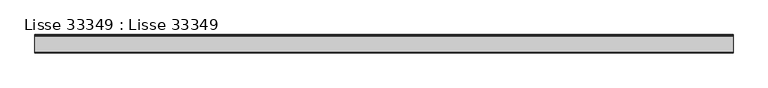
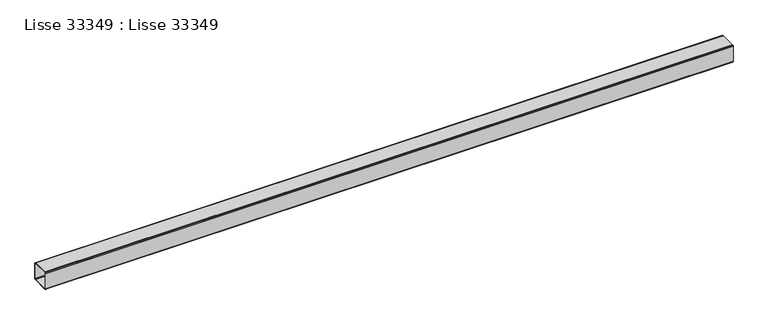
"""IFC4 building model written with IfcOpenShell, lengths in millimetres: beam geometry, Lisse 33349 : Lisse 33349."""

from ifc_helpers import new_model, si_unit, frame, origin, place, context, project, spatial, polyline, outline, extrude, source, transform, mapped, element, save


def lisse_33349_lisse_33349_2b0b3e01(model_context):
    return source(origin(), model_context, "Body", "SweptSolid", [
        extrude(outline(polyline([(-38458.0, 8318.4415211), (-38455.8038476, 8316.2453687), (-38455.0, 8313.2453687), (-38455.0, 8225.2453687), (-38455.8038476, 8222.2453687), (-38458.0, 8220.0492163), (-38461.0, 8219.2453687), (-38549.0, 8219.2453687), (-38552.0, 8220.0492163), (-38554.1961524, 8222.2453687), (-38555.0, 8225.2453687), (-38555.0, 8313.2453687), (-38554.1961524, 8316.2453687), (-38552.0, 8318.4415211), (-38549.0, 8319.2453687), (-38461.0, 8319.2453687), (-38458.0, 8318.4415211)]), holes=[polyline([(-38550.4641016, 8225.2453687), (-38549.0, 8223.7812671), (-38547.0, 8223.2453687), (-38463.0, 8223.2453687), (-38461.0, 8223.7812671), (-38459.5358984, 8225.2453687), (-38459.0, 8227.2453687), (-38459.0, 8311.2453687), (-38459.5358984, 8313.2453687), (-38461.0, 8314.7094703), (-38463.0, 8315.2453687), (-38547.0, 8315.2453687), (-38549.0, 8314.7094703), (-38550.4641016, 8313.2453687), (-38551.0, 8311.2453687), (-38551.0, 8227.2453687), (-38550.4641016, 8225.2453687)])]), frame((3762.4999999, 0.0, 0.0), z_axis=(1.0, 0.0, 0.0), x_axis=(0.0, 1.0, 0.0)), (0.0, 0.0, 1.0), 3792.5),
    ])


if __name__ == "__main__":
    model = new_model("IFC4")
    model_context = context("Model", 3, world=origin())
    ifc_project = project(units=[si_unit("LENGTHUNIT", "METRE", prefix="MILLI")], contexts=[model_context])
    site = spatial("IfcSite", under=ifc_project)
    building = spatial("IfcBuilding", under=site)
    placement = place(None, origin())
    lisse_33349_lisse_33349_shape = lisse_33349_lisse_33349_2b0b3e01(model_context)
    element("IfcBeam", 1, ObjectType="Lisse 33349 : Lisse 33349", at=placement, inside=building, context=model_context, shape_type="MappedRepresentation", body=[
        mapped(lisse_33349_lisse_33349_shape, transform((0.0, 0.0, 0.0), x_axis=(1.0, 0.0, 0.0), y_axis=(0.0, 1.0, 0.0), z_axis=(0.0, 0.0, 1.0))),
    ])
    save(model, "model.ifc")
